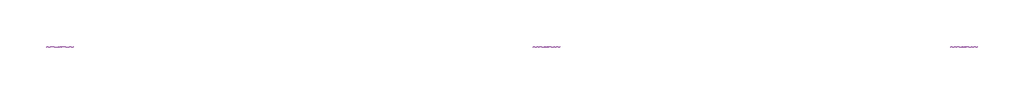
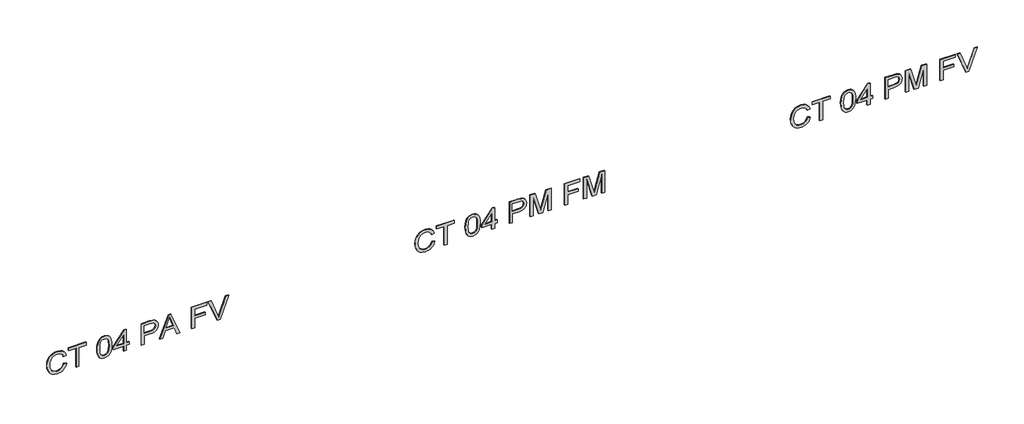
# One storey, part 2 of 2: 3 proxies.
"""IFC4 building model written with IfcOpenShell, lengths in millimetres."""

from ifc_helpers import new_model, si_unit, frame, origin, place, context, project, spatial, polyline, outline, extrude, element, save

model = new_model("IFC4")

# Units and contexts
model_context = context("Model", 3, world=origin())
ifc_project = project(units=[si_unit("LENGTHUNIT", "METRE", prefix="MILLI")], contexts=[model_context])

# Site, building, storey
site = spatial("IfcSite", under=ifc_project)
building = spatial("IfcBuilding", under=site)
storey = spatial("IfcBuildingStorey", under=building, Name="03 - Marelli - Planta Baixa - Cabine 04 Pessoas", Elevation=-24000.0)

# Proxies
placement = place(None, origin())
element("IfcBuildingElementProxy", 1, Name="300mm Arial", ObjectType="300mm Arial", at=placement, inside=storey, context=model_context, shape_type="SweptSolid", body=[
    extrude(outline(polyline([(-18192.872763, 2890.8602614), (-18225.136014, 2878.6741703), (-18248.3493679, 2858.891316), (-18262.3656719, 2832.6889209), (-18267.0377732, 2801.2442074), (-18263.6072736, 2774.2692601), (-18253.3157748, 2749.2624815), (-18236.0897004, 2728.4035724), (-18211.855474, 2713.8722335), (-18181.7627268, 2705.3465683), (-18146.96109, 2702.5046799), (-18118.5422059, 2704.9051099), (-18090.9694503, 2712.1064), (-18066.5788741, 2725.2305901), (-18047.7065277, 2745.3997205), (-18035.6216042, 2771.9791947), (-18031.5932963, 2804.3344162), (-18035.226131, 2832.4038124), (-18046.1246351, 2855.2492843), (-18064.9693903, 2873.0915611), (-18092.4409783, 2886.1513719), (-18083.4646576, 2923.8224882), (-18045.6463885, 2907.185025), (-18030.3241034, 2895.3829107), (-18017.3930513, 2881.2585414), (-18007.1245451, 2865.0786314), (-17999.7898978, 2847.1098951), (-17993.92218, 2805.8059441), (-17998.4563256, 2767.9508868), (-18012.0587624, 2733.4067675), (-18034.3983965, 2704.2797105), (-18065.1441343, 2682.6758404), (-18103.0911621, 2669.2941328), (-18147.0346664, 2664.8335636), (-18188.6973024, 2668.779098), (-18227.6008233, 2680.6157012), (-18260.6918088, 2700.0030823), (-18284.9168382, 2726.6009506), (-18299.7608767, 2761.3014198), (-18304.7088895, 2804.9966038), (-18303.0741139, 2827.4190114), (-18298.1697871, 2848.0387972), (-18289.995909, 2866.8559612), (-18278.5524797, 2883.8705035), (-18263.995849, 2898.7467317), (-18246.4823668, 2911.1489535), (-18226.012033, 2921.0771688), (-18202.5848477, 2928.5313777), (-18192.872763, 2890.8602614)])), frame((0.0, 8778.3159498, 0.0), z_axis=(0.0, 1.0, 0.0), x_axis=(0.0, 0.0, 1.0)), (0.0, 0.0, 1.0), 10.0),
    extrude(outline(polyline([(-18300.0, 3055.6713953), (-18300.0, 3093.3425116), (-18036.3021859, 3093.3425116), (-18036.3021859, 3192.2291919), (-17998.6310696, 3192.2291919), (-17998.6310696, 2956.784715), (-18036.3021859, 2956.784715), (-18036.3021859, 3055.6713953), (-18300.0, 3055.6713953)])), frame((0.0, 8778.3159498, 0.0), z_axis=(0.0, 1.0, 0.0), x_axis=(0.0, 0.0, 1.0)), (0.0, 0.0, 1.0), 10.0),
    extrude(outline(polyline([(-18151.7435559, 3338.2047676), (-18191.1851044, 3340.0809657), (-18225.0440435, 3345.7095603), (-18253.3203733, 3355.0905511), (-18276.0140939, 3368.2239384), (-18288.568067, 3381.9091486), (-18297.5351906, 3397.9488036), (-18302.9154648, 3416.3429033), (-18304.7088895, 3437.0914479), (-18300.5794141, 3467.54288), (-18288.190988, 3492.2369589), (-18267.4056552, 3511.3392315), (-18238.0854602, 3525.0152447), (-18199.7061711, 3533.2374073), (-18151.7435559, 3535.9781282), (-18111.7823742, 3534.2674769), (-18080.9262719, 3529.1355231), (-18056.6276661, 3521.2996366), (-18036.3389741, 3511.4771873), (-18020.1981515, 3498.4725588), (-18008.3431542, 3481.0901345), (-18001.0590907, 3460.3048018), (-17998.6310696, 3437.0914479), (-18002.7329538, 3406.8055626), (-18015.0386065, 3382.166666), (-18035.7411658, 3363.0368022), (-18065.0337697, 3349.2780156), (-18103.5050293, 3340.9730796), (-18151.7435559, 3338.2047676)]), holes=[polyline([(-18151.6699795, 3375.8758839), (-18093.1767423, 3380.4376206), (-18072.097104, 3386.1397915), (-18056.4621192, 3394.1228308), (-18041.3421692, 3413.0687536), (-18036.3021859, 3436.6499895), (-18042.0227509, 3461.5556005), (-18059.184446, 3481.2372873), (-18073.5456393, 3488.7052918), (-18093.7469594, 3494.0395807), (-18151.6699795, 3498.3070119), (-18210.8346014, 3493.8924279), (-18231.0980016, 3488.374198), (-18245.1487945, 3480.6486761), (-18261.5655286, 3460.9302012), (-18267.0377732, 3437.0914479), (-18261.5839227, 3413.2526946), (-18245.2223709, 3393.5342196), (-18231.1945706, 3385.8086977), (-18210.9265719, 3380.2904678), (-18151.6699795, 3375.8758839)])]), frame((0.0, 8778.3159498, 0.0), z_axis=(0.0, 1.0, 0.0), x_axis=(0.0, 0.0, 1.0)), (0.0, 0.0, 1.0), 10.0),
    extrude(outline(polyline([(-18300.0, 3691.3714829), (-18300.0, 3729.0425992), (-18229.3666569, 3729.0425992), (-18229.3666569, 3766.7137155), (-18191.6955406, 3766.7137155), (-18191.6955406, 3729.0425992), (-18003.3399591, 3729.0425992), (-18003.3399591, 3700.789262), (-18191.6955406, 3554.8136863), (-18229.3666569, 3554.8136863), (-18229.3666569, 3691.3714829), (-18300.0, 3691.3714829)]), holes=[polyline([(-18191.6955406, 3691.3714829), (-18191.6955406, 3601.1668177), (-18075.2976773, 3691.3714829), (-18191.6955406, 3691.3714829)])]), frame((0.0, 8778.3159498, 0.0), z_axis=(0.0, 1.0, 0.0), x_axis=(0.0, 0.0, 1.0)), (0.0, 0.0, 1.0), 10.0),
    extrude(outline(polyline([(-18300.0, 3931.5248494), (-18300.0, 3969.1959657), (-18177.568872, 3969.1959657), (-18177.568872, 4045.7889971), (-18175.904206, 4074.9873312), (-18170.9102079, 4099.3066303), (-18162.5868778, 4118.7468945), (-18150.9342156, 4133.3081237), (-18136.8765248, 4143.9146215), (-18121.338109, 4151.4906913), (-18104.3189682, 4156.0363333), (-18085.8191024, 4157.5515472), (-18064.362385, 4155.307467), (-18044.7266835, 4148.5752265), (-18028.0800233, 4138.154969), (-18015.5904295, 4124.8468378), (-18006.8624292, 4108.3197392), (-18001.5005491, 4088.2425793), (-17998.6310696, 4043.2138231), (-17998.6310696, 3931.5248494), (-18300.0, 3931.5248494)]), holes=[polyline([(-18139.8977557, 3969.1959657), (-18036.3021859, 3969.1959657), (-18036.3021859, 4047.1133723), (-18038.8773598, 4084.7844886), (-18045.2049301, 4099.0123247), (-18055.9470844, 4110.2051344), (-18070.2209058, 4117.4616068), (-18087.1434776, 4119.8804309), (-18109.4187324, 4115.7785467), (-18126.0653927, 4103.4728939), (-18136.4396649, 4081.3999742), (-18139.8977557, 4047.9962891), (-18139.8977557, 3969.1959657)])]), frame((0.0, 8778.3159498, 0.0), z_axis=(0.0, 1.0, 0.0), x_axis=(0.0, 0.0, 1.0)), (0.0, 0.0, 1.0), 10.0),
    extrude(outline(polyline([(-18300.0, 4174.2533898), (-18300.0, 4214.0582217), (-18205.8222092, 4248.4919764), (-18205.8222092, 4372.6153616), (-18300.0, 4407.1226927), (-18300.0, 4446.9275246), (-17998.6310696, 4326.6301122), (-17998.6310696, 4294.5508022), (-18300.0, 4174.2533898)]), holes=[polyline([(-18168.1510929, 4262.3243394), (-18087.584936, 4291.8284755), (-18036.3021859, 4310.5904572), (-18094.0596591, 4331.7068837), (-18168.1510929, 4358.856575), (-18168.1510929, 4262.3243394)])]), frame((0.0, 8778.3159498, 0.0), z_axis=(0.0, 1.0, 0.0), x_axis=(0.0, 0.0, 1.0)), (0.0, 0.0, 1.0), 10.0),
    extrude(outline(polyline([(-18300.0, 4604.8960534), (-18300.0, 4642.5671697), (-18163.4422034, 4642.5671697), (-18163.4422034, 4783.8338558), (-18125.7710871, 4783.8338558), (-18125.7710871, 4642.5671697), (-18036.3021859, 4642.5671697), (-18036.3021859, 4807.3783035), (-17998.6310696, 4807.3783035), (-17998.6310696, 4604.8960534), (-18300.0, 4604.8960534)])), frame((0.0, 8778.3159498, 0.0), z_axis=(0.0, 1.0, 0.0), x_axis=(0.0, 0.0, 1.0)), (0.0, 0.0, 1.0), 10.0),
    extrude(outline(polyline([(-18300.0, 4948.2035313), (-18300.0, 4987.1254463), (-17998.6310696, 5101.9782052), (-17998.6310696, 5061.6583386), (-18215.7550231, 4981.165758), (-18264.6833285, 4965.126103), (-18215.7550231, 4948.8657188), (-17998.6310696, 4868.5938675), (-17998.6310696, 4828.2740008), (-18300.0, 4948.2035313)])), frame((0.0, 8778.3159498, 0.0), z_axis=(0.0, 1.0, 0.0), x_axis=(0.0, 0.0, 1.0)), (0.0, 0.0, 1.0), 10.0),
])
element("IfcBuildingElementProxy", 2, Name="300mm Arial", ObjectType="300mm Arial", at=placement, inside=storey, context=model_context, shape_type="SweptSolid", body=[
    extrude(outline(polyline([(-18192.872763, 7824.9358079), (-18225.136014, 7812.7497168), (-18248.3493679, 7792.9668625), (-18262.3656719, 7766.7644674), (-18267.0377732, 7735.3197539), (-18263.6072736, 7708.3448066), (-18253.3157748, 7683.3380279), (-18236.0897004, 7662.4791188), (-18211.855474, 7647.94778), (-18181.7627268, 7639.4221148), (-18146.96109, 7636.5802264), (-18118.5422059, 7638.9806564), (-18090.9694503, 7646.1819464), (-18066.5788741, 7659.3061366), (-18047.7065277, 7679.475267), (-18035.6216042, 7706.0547411), (-18031.5932963, 7738.4099626), (-18035.226131, 7766.4793589), (-18046.1246351, 7789.3248308), (-18064.9693903, 7807.1671075), (-18092.4409783, 7820.2269184), (-18083.4646576, 7857.8980347), (-18045.6463885, 7841.2605714), (-18030.3241034, 7829.4584572), (-18017.3930513, 7815.3340878), (-18007.1245451, 7799.1541778), (-17999.7898978, 7781.1854416), (-17993.92218, 7739.8814906), (-17998.4563256, 7702.0264333), (-18012.0587624, 7667.482314), (-18034.3983965, 7638.355257), (-18065.1441343, 7616.7513868), (-18103.0911621, 7603.3696792), (-18147.0346664, 7598.9091101), (-18188.6973024, 7602.8546445), (-18227.6008233, 7614.6912476), (-18260.6918088, 7634.0786288), (-18284.9168382, 7660.676497), (-18299.7608767, 7695.3769662), (-18304.7088895, 7739.0721502), (-18303.0741139, 7761.4945578), (-18298.1697871, 7782.1143437), (-18289.995909, 7800.9315077), (-18278.5524797, 7817.94605), (-18263.995849, 7832.8222782), (-18246.4823668, 7845.2244999), (-18226.012033, 7855.1527153), (-18202.5848477, 7862.6069242), (-18192.872763, 7824.9358079)])), frame((0.0, 8778.3159498, 0.0), z_axis=(0.0, 1.0, 0.0), x_axis=(0.0, 0.0, 1.0)), (0.0, 0.0, 1.0), 10.0),
    extrude(outline(polyline([(-18300.0, 7989.7469417), (-18300.0, 8027.418058), (-18036.3021859, 8027.418058), (-18036.3021859, 8126.3047383), (-17998.6310696, 8126.3047383), (-17998.6310696, 7890.8602614), (-18036.3021859, 7890.8602614), (-18036.3021859, 7989.7469417), (-18300.0, 7989.7469417)])), frame((0.0, 8778.3159498, 0.0), z_axis=(0.0, 1.0, 0.0), x_axis=(0.0, 0.0, 1.0)), (0.0, 0.0, 1.0), 10.0),
    extrude(outline(polyline([(-18151.7435559, 8272.280314), (-18191.1851044, 8274.1565122), (-18225.0440435, 8279.7851067), (-18253.3203733, 8289.1660976), (-18276.0140939, 8302.2994848), (-18288.568067, 8315.9846951), (-18297.5351906, 8332.02435), (-18302.9154648, 8350.4184498), (-18304.7088895, 8371.1669943), (-18300.5794141, 8401.6184265), (-18288.190988, 8426.3125054), (-18267.4056552, 8445.414778), (-18238.0854602, 8459.0907912), (-18199.7061711, 8467.3129538), (-18151.7435559, 8470.0536746), (-18111.7823742, 8468.3430234), (-18080.9262719, 8463.2110695), (-18056.6276661, 8455.375183), (-18036.3389741, 8445.5527338), (-18020.1981515, 8432.5481052), (-18008.3431542, 8415.165681), (-18001.0590907, 8394.3803482), (-17998.6310696, 8371.1669943), (-18002.7329538, 8340.8811091), (-18015.0386065, 8316.2422124), (-18035.7411658, 8297.1123487), (-18065.0337697, 8283.3535621), (-18103.5050293, 8275.048626), (-18151.7435559, 8272.280314)]), holes=[polyline([(-18151.6699795, 8309.9514303), (-18093.1767423, 8314.5131671), (-18072.097104, 8320.215338), (-18056.4621192, 8328.1983773), (-18041.3421692, 8347.1443), (-18036.3021859, 8370.7255359), (-18042.0227509, 8395.631147), (-18059.184446, 8415.3128337), (-18073.5456393, 8422.7808383), (-18093.7469594, 8428.1151272), (-18151.6699795, 8432.3825583), (-18210.8346014, 8427.9679744), (-18231.0980016, 8422.4497445), (-18245.1487945, 8414.7242226), (-18261.5655286, 8395.0057476), (-18267.0377732, 8371.1669943), (-18261.5839227, 8347.328241), (-18245.2223709, 8327.6097661), (-18231.1945706, 8319.8842442), (-18210.9265719, 8314.3660143), (-18151.6699795, 8309.9514303)])]), frame((0.0, 8778.3159498, 0.0), z_axis=(0.0, 1.0, 0.0), x_axis=(0.0, 0.0, 1.0)), (0.0, 0.0, 1.0), 10.0),
    extrude(outline(polyline([(-18300.0, 8625.4470294), (-18300.0, 8663.1181457), (-18229.3666569, 8663.1181457), (-18229.3666569, 8700.789262), (-18191.6955406, 8700.789262), (-18191.6955406, 8663.1181457), (-18003.3399591, 8663.1181457), (-18003.3399591, 8634.8648085), (-18191.6955406, 8488.8892328), (-18229.3666569, 8488.8892328), (-18229.3666569, 8625.4470294), (-18300.0, 8625.4470294)]), holes=[polyline([(-18191.6955406, 8625.4470294), (-18191.6955406, 8535.2423642), (-18075.2976773, 8625.4470294), (-18191.6955406, 8625.4470294)])]), frame((0.0, 8778.3159498, 0.0), z_axis=(0.0, 1.0, 0.0), x_axis=(0.0, 0.0, 1.0)), (0.0, 0.0, 1.0), 10.0),
    extrude(outline(polyline([(-18300.0, 8865.6003958), (-18300.0, 8903.2715122), (-18177.568872, 8903.2715122), (-18177.568872, 8979.8645435), (-18175.904206, 9009.0628777), (-18170.9102079, 9033.3821768), (-18162.5868778, 9052.822441), (-18150.9342156, 9067.3836702), (-18136.8765248, 9077.990168), (-18121.338109, 9085.5662378), (-18104.3189682, 9090.1118797), (-18085.8191024, 9091.6270937), (-18064.362385, 9089.3830135), (-18044.7266835, 9082.650773), (-18028.0800233, 9072.2305155), (-18015.5904295, 9058.9223843), (-18006.8624292, 9042.3952857), (-18001.5005491, 9022.3181258), (-17998.6310696, 8977.2893696), (-17998.6310696, 8865.6003958), (-18300.0, 8865.6003958)]), holes=[polyline([(-18139.8977557, 8903.2715122), (-18036.3021859, 8903.2715122), (-18036.3021859, 8981.1889187), (-18038.8773598, 9018.860035), (-18045.2049301, 9033.0878712), (-18055.9470844, 9044.2806809), (-18070.2209058, 9051.5371533), (-18087.1434776, 9053.9559774), (-18109.4187324, 9049.8540931), (-18126.0653927, 9037.5484404), (-18136.4396649, 9015.4755207), (-18139.8977557, 8982.0718355), (-18139.8977557, 8903.2715122)])]), frame((0.0, 8778.3159498, 0.0), z_axis=(0.0, 1.0, 0.0), x_axis=(0.0, 0.0, 1.0)), (0.0, 0.0, 1.0), 10.0),
    extrude(outline(polyline([(-18300.0, 9143.4248786), (-18300.0, 9181.0959949), (-18036.3021859, 9181.0959949), (-18300.0, 9256.8061095), (-18300.0, 9307.8681304), (-18036.3021859, 9383.5782451), (-18300.0, 9383.5782451), (-18300.0, 9421.2493614), (-17998.6310696, 9421.2493614), (-17998.6310696, 9356.4285538), (-18207.3673136, 9295.801601), (-18255.4127022, 9282.33712), (-18211.0461336, 9269.9027085), (-17998.6310696, 9208.2456862), (-17998.6310696, 9143.4248786), (-18300.0, 9143.4248786)])), frame((0.0, 8778.3159498, 0.0), z_axis=(0.0, 1.0, 0.0), x_axis=(0.0, 0.0, 1.0)), (0.0, 0.0, 1.0), 10.0),
    extrude(outline(polyline([(-18300.0, 9604.8960534), (-18300.0, 9642.5671697), (-18163.4422034, 9642.5671697), (-18163.4422034, 9783.8338558), (-18125.7710871, 9783.8338558), (-18125.7710871, 9642.5671697), (-18036.3021859, 9642.5671697), (-18036.3021859, 9807.3783035), (-17998.6310696, 9807.3783035), (-17998.6310696, 9604.8960534), (-18300.0, 9604.8960534)])), frame((0.0, 8778.3159498, 0.0), z_axis=(0.0, 1.0, 0.0), x_axis=(0.0, 0.0, 1.0)), (0.0, 0.0, 1.0), 10.0),
    extrude(outline(polyline([(-18300.0, 9859.1760884), (-18300.0, 9896.8472047), (-18036.3021859, 9896.8472047), (-18300.0, 9972.5573193), (-18300.0, 10023.6193403), (-18036.3021859, 10099.3294549), (-18300.0, 10099.3294549), (-18300.0, 10137.0005712), (-17998.6310696, 10137.0005712), (-17998.6310696, 10072.1797636), (-18207.3673136, 10011.5528108), (-18255.4127022, 9998.0883298), (-18211.0461336, 9985.6539184), (-17998.6310696, 9923.996896), (-17998.6310696, 9859.1760884), (-18300.0, 9859.1760884)])), frame((0.0, 8778.3159498, 0.0), z_axis=(0.0, 1.0, 0.0), x_axis=(0.0, 0.0, 1.0)), (0.0, 0.0, 1.0), 10.0),
])
element("IfcBuildingElementProxy", 3, Name="300mm Arial", ObjectType="300mm Arial", at=placement, inside=storey, context=model_context, shape_type="SweptSolid", body=[
    extrude(outline(polyline([(-18192.872763, 12857.8980347), (-18225.136014, 12845.7119436), (-18248.3493679, 12825.9290893), (-18262.3656719, 12799.7266942), (-18267.0377732, 12768.2819806), (-18263.6072736, 12741.3070333), (-18253.3157748, 12716.3002547), (-18236.0897004, 12695.4413456), (-18211.855474, 12680.9100068), (-18181.7627268, 12672.3843415), (-18146.96109, 12669.5424531), (-18118.5422059, 12671.9428831), (-18090.9694503, 12679.1441732), (-18066.5788741, 12692.2683634), (-18047.7065277, 12712.4374938), (-18035.6216042, 12739.0169679), (-18031.5932963, 12771.3721894), (-18035.226131, 12799.4415856), (-18046.1246351, 12822.2870575), (-18064.9693903, 12840.1293343), (-18092.4409783, 12853.1891451), (-18083.4646576, 12890.8602614), (-18045.6463885, 12874.2227982), (-18030.3241034, 12862.4206839), (-18017.3930513, 12848.2963146), (-18007.1245451, 12832.1164046), (-17999.7898978, 12814.1476684), (-17993.92218, 12772.8437174), (-17998.4563256, 12734.9886601), (-18012.0587624, 12700.4445407), (-18034.3983965, 12671.3174838), (-18065.1441343, 12649.7136136), (-18103.0911621, 12636.331906), (-18147.0346664, 12631.8713368), (-18188.6973024, 12635.8168712), (-18227.6008233, 12647.6534744), (-18260.6918088, 12667.0408556), (-18284.9168382, 12693.6387238), (-18299.7608767, 12728.339193), (-18304.7088895, 12772.034377), (-18303.0741139, 12794.4567846), (-18298.1697871, 12815.0765704), (-18289.995909, 12833.8937345), (-18278.5524797, 12850.9082767), (-18263.995849, 12865.7845049), (-18246.4823668, 12878.1867267), (-18226.012033, 12888.114942), (-18202.5848477, 12895.569151), (-18192.872763, 12857.8980347)])), frame((0.0, 8778.3159498, 0.0), z_axis=(0.0, 1.0, 0.0), x_axis=(0.0, 0.0, 1.0)), (0.0, 0.0, 1.0), 10.0),
    extrude(outline(polyline([(-18300.0, 13022.7091685), (-18300.0, 13060.3802848), (-18036.3021859, 13060.3802848), (-18036.3021859, 13159.2669651), (-17998.6310696, 13159.2669651), (-17998.6310696, 12923.8224882), (-18036.3021859, 12923.8224882), (-18036.3021859, 13022.7091685), (-18300.0, 13022.7091685)])), frame((0.0, 8778.3159498, 0.0), z_axis=(0.0, 1.0, 0.0), x_axis=(0.0, 0.0, 1.0)), (0.0, 0.0, 1.0), 10.0),
    extrude(outline(polyline([(-18151.7435559, 13305.2425408), (-18191.1851044, 13307.118739), (-18225.0440435, 13312.7473335), (-18253.3203733, 13322.1283244), (-18276.0140939, 13335.2617116), (-18288.568067, 13348.9469218), (-18297.5351906, 13364.9865768), (-18302.9154648, 13383.3806766), (-18304.7088895, 13404.1292211), (-18300.5794141, 13434.5806532), (-18288.190988, 13459.2747322), (-18267.4056552, 13478.3770048), (-18238.0854602, 13492.0530179), (-18199.7061711, 13500.2751805), (-18151.7435559, 13503.0159014), (-18111.7823742, 13501.3052501), (-18080.9262719, 13496.1732963), (-18056.6276661, 13488.3374098), (-18036.3389741, 13478.5149605), (-18020.1981515, 13465.510332), (-18008.3431542, 13448.1279077), (-18001.0590907, 13427.342575), (-17998.6310696, 13404.1292211), (-18002.7329538, 13373.8433358), (-18015.0386065, 13349.2044392), (-18035.7411658, 13330.0745755), (-18065.0337697, 13316.3157888), (-18103.5050293, 13308.0108528), (-18151.7435559, 13305.2425408)]), holes=[polyline([(-18151.6699795, 13342.9136571), (-18093.1767423, 13347.4753938), (-18072.097104, 13353.1775648), (-18056.4621192, 13361.1606041), (-18041.3421692, 13380.1065268), (-18036.3021859, 13403.6877627), (-18042.0227509, 13428.5933738), (-18059.184446, 13448.2750605), (-18073.5456393, 13455.743065), (-18093.7469594, 13461.0773539), (-18151.6699795, 13465.3447851), (-18210.8346014, 13460.9302012), (-18231.0980016, 13455.4119712), (-18245.1487945, 13447.6864493), (-18261.5655286, 13427.9679744), (-18267.0377732, 13404.1292211), (-18261.5839227, 13380.2904678), (-18245.2223709, 13360.5719929), (-18231.1945706, 13352.846471), (-18210.9265719, 13347.328241), (-18151.6699795, 13342.9136571)])]), frame((0.0, 8778.3159498, 0.0), z_axis=(0.0, 1.0, 0.0), x_axis=(0.0, 0.0, 1.0)), (0.0, 0.0, 1.0), 10.0),
    extrude(outline(polyline([(-18300.0, 13658.4092562), (-18300.0, 13696.0803725), (-18229.3666569, 13696.0803725), (-18229.3666569, 13733.7514888), (-18191.6955406, 13733.7514888), (-18191.6955406, 13696.0803725), (-18003.3399591, 13696.0803725), (-18003.3399591, 13667.8270352), (-18191.6955406, 13521.8514596), (-18229.3666569, 13521.8514596), (-18229.3666569, 13658.4092562), (-18300.0, 13658.4092562)]), holes=[polyline([(-18191.6955406, 13658.4092562), (-18191.6955406, 13568.2045909), (-18075.2976773, 13658.4092562), (-18191.6955406, 13658.4092562)])]), frame((0.0, 8778.3159498, 0.0), z_axis=(0.0, 1.0, 0.0), x_axis=(0.0, 0.0, 1.0)), (0.0, 0.0, 1.0), 10.0),
    extrude(outline(polyline([(-18300.0, 13898.5626226), (-18300.0, 13936.2337389), (-18177.568872, 13936.2337389), (-18177.568872, 14012.8267703), (-18175.904206, 14042.0251044), (-18170.9102079, 14066.3444036), (-18162.5868778, 14085.7846677), (-18150.9342156, 14100.345897), (-18136.8765248, 14110.9523947), (-18121.338109, 14118.5284646), (-18104.3189682, 14123.0741065), (-18085.8191024, 14124.5893204), (-18064.362385, 14122.3452403), (-18044.7266835, 14115.6129998), (-18028.0800233, 14105.1927423), (-18015.5904295, 14091.8846111), (-18006.8624292, 14075.3575124), (-18001.5005491, 14055.2803526), (-17998.6310696, 14010.2515963), (-17998.6310696, 13898.5626226), (-18300.0, 13898.5626226)]), holes=[polyline([(-18139.8977557, 13936.2337389), (-18036.3021859, 13936.2337389), (-18036.3021859, 14014.1511455), (-18038.8773598, 14051.8222618), (-18045.2049301, 14066.050098), (-18055.9470844, 14077.2429077), (-18070.2209058, 14084.49938), (-18087.1434776, 14086.9182041), (-18109.4187324, 14082.8163199), (-18126.0653927, 14070.5106672), (-18136.4396649, 14048.4377474), (-18139.8977557, 14015.0340623), (-18139.8977557, 13936.2337389)])]), frame((0.0, 8778.3159498, 0.0), z_axis=(0.0, 1.0, 0.0), x_axis=(0.0, 0.0, 1.0)), (0.0, 0.0, 1.0), 10.0),
    extrude(outline(polyline([(-18300.0, 14176.3871054), (-18300.0, 14214.0582217), (-18036.3021859, 14214.0582217), (-18300.0, 14289.7683363), (-18300.0, 14340.8303572), (-18036.3021859, 14416.5404718), (-18300.0, 14416.5404718), (-18300.0, 14454.2115881), (-17998.6310696, 14454.2115881), (-17998.6310696, 14389.3907806), (-18207.3673136, 14328.7638278), (-18255.4127022, 14315.2993467), (-18211.0461336, 14302.8649353), (-17998.6310696, 14241.2079129), (-17998.6310696, 14176.3871054), (-18300.0, 14176.3871054)])), frame((0.0, 8778.3159498, 0.0), z_axis=(0.0, 1.0, 0.0), x_axis=(0.0, 0.0, 1.0)), (0.0, 0.0, 1.0), 10.0),
    extrude(outline(polyline([(-18300.0, 14637.8582801), (-18300.0, 14675.5293964), (-18163.4422034, 14675.5293964), (-18163.4422034, 14816.7960826), (-18125.7710871, 14816.7960826), (-18125.7710871, 14675.5293964), (-18036.3021859, 14675.5293964), (-18036.3021859, 14840.3405303), (-17998.6310696, 14840.3405303), (-17998.6310696, 14637.8582801), (-18300.0, 14637.8582801)])), frame((0.0, 8778.3159498, 0.0), z_axis=(0.0, 1.0, 0.0), x_axis=(0.0, 0.0, 1.0)), (0.0, 0.0, 1.0), 10.0),
    extrude(outline(polyline([(-18300.0, 14981.165758), (-18300.0, 15020.0876731), (-17998.6310696, 15134.940432), (-17998.6310696, 15094.6205653), (-18215.7550231, 15014.1279848), (-18264.6833285, 14998.0883298), (-18215.7550231, 14981.8279456), (-17998.6310696, 14901.5560943), (-17998.6310696, 14861.2362276), (-18300.0, 14981.165758)])), frame((0.0, 8778.3159498, 0.0), z_axis=(0.0, 1.0, 0.0), x_axis=(0.0, 0.0, 1.0)), (0.0, 0.0, 1.0), 10.0),
])

save(model, "model.ifc")
